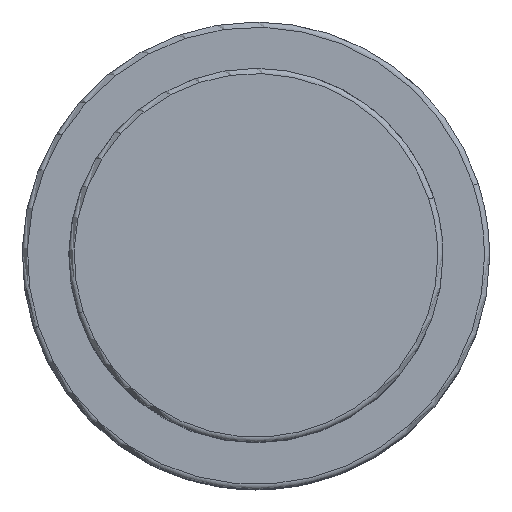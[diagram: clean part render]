
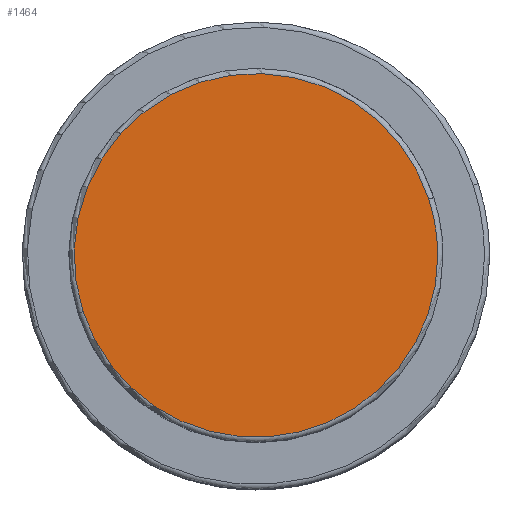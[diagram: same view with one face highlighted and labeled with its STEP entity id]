
A CAD part, top view. The second image highlights one B-rep face of the part: STEP entity #1464.
In plain terms, the highlighted planar face has unit normal (0, 0, 1).
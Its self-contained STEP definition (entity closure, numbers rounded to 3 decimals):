
#1430=CARTESIAN_POINT('',(17.5,0.0,48.0));
#1431=VERTEX_POINT('',#1430);
#1432=CARTESIAN_POINT('',(16.643,5.408,48.0));
#1433=VERTEX_POINT('',#1432);
#1434=CARTESIAN_POINT('',(0.0,0.0,48.0));
#1435=DIRECTION('',(0.0,0.0,1.0));
#1436=DIRECTION('',(1.0,0.0,0.0));
#1437=AXIS2_PLACEMENT_3D('',#1434,#1435,#1436);
#1438=CIRCLE('',#1437,17.5);
#1439=EDGE_CURVE('no 1603',#1431,#1433,#1438,.T.);
#1440=ORIENTED_EDGE('',*,*,#1439,.T.);
#1441=CARTESIAN_POINT('',(-16.643,-5.408,48.0));
#1442=VERTEX_POINT('',#1441);
#1443=CARTESIAN_POINT('',(0.0,0.0,48.0));
#1444=DIRECTION('',(0.0,0.0,1.0));
#1445=DIRECTION('',(1.0,0.0,0.0));
#1446=AXIS2_PLACEMENT_3D('',#1443,#1444,#1445);
#1447=CIRCLE('',#1446,17.5);
#1448=EDGE_CURVE('no 1609',#1433,#1442,#1447,.T.);
#1449=ORIENTED_EDGE('',*,*,#1448,.T.);
#1450=CARTESIAN_POINT('',(0.0,0.0,48.0));
#1451=DIRECTION('',(0.0,0.0,1.0));
#1452=DIRECTION('',(1.0,0.0,0.0));
#1453=AXIS2_PLACEMENT_3D('',#1450,#1451,#1452);
#1454=CIRCLE('',#1453,17.5);
#1455=EDGE_CURVE('no 1613',#1442,#1431,#1454,.T.);
#1456=ORIENTED_EDGE('',*,*,#1455,.T.);
#1457=EDGE_LOOP('',(#1440,#1449,#1456));
#1458=FACE_OUTER_BOUND('',#1457,.T.);
#1459=CARTESIAN_POINT('',(0.0,0.0,48.0));
#1460=DIRECTION('',(0.0,0.0,1.0));
#1461=DIRECTION('',(1.0,0.0,0.0));
#1462=AXIS2_PLACEMENT_3D('',#1459,#1460,#1461);
#1463=PLANE('',#1462);
#1464=ADVANCED_FACE('no 1594',(#1458),#1463,.T.);
